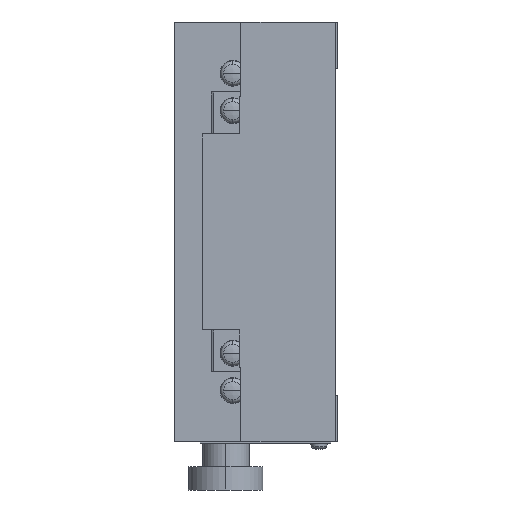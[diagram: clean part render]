
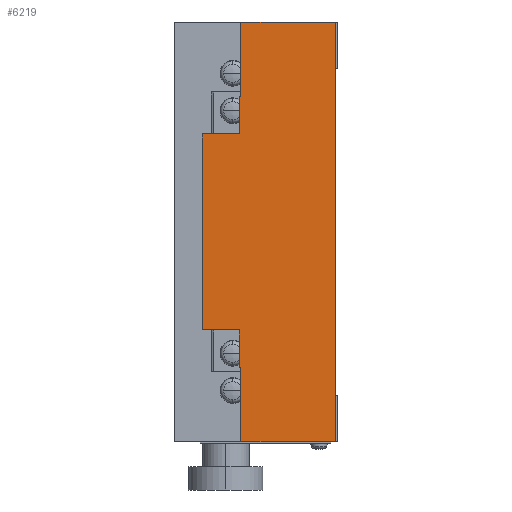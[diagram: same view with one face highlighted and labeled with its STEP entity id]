
A CAD part, left-side view. The second image highlights one B-rep face of the part: STEP entity #6219.
In plain terms, the highlighted planar face has unit normal (-1, 0, 0).
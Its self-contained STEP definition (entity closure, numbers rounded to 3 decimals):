
#1060 = CARTESIAN_POINT ( 'NONE',  ( -55., 29., -21. ) ) ;
#1230 = DIRECTION ( 'NONE',  ( 0., -1., 0. ) ) ;
#1231 = VECTOR ( 'NONE', #1230, 1000. ) ;
#1232 = CARTESIAN_POINT ( 'NONE',  ( -55., 0.5, 45. ) ) ;
#1233 = LINE ( 'NONE', #1232, #1231 ) ;
#1239 = DIRECTION ( 'NONE',  ( 0., 0., 1. ) ) ;
#1240 = VECTOR ( 'NONE', #1239, 1000. ) ;
#1241 = CARTESIAN_POINT ( 'NONE',  ( -55., 21.046, 0. ) ) ;
#1242 = LINE ( 'NONE', #1241, #1240 ) ;
#1243 = CARTESIAN_POINT ( 'NONE',  ( -55., 21.046, 29. ) ) ;
#1279 = CARTESIAN_POINT ( 'NONE',  ( -55., 21.046, 21. ) ) ;
#1291 = DIRECTION ( 'NONE',  ( 0., 0., -1. ) ) ;
#1292 = VECTOR ( 'NONE', #1291, 1000. ) ;
#1293 = CARTESIAN_POINT ( 'NONE',  ( -55., 29., 45. ) ) ;
#1294 = LINE ( 'NONE', #1293, #1292 ) ;
#1301 = CARTESIAN_POINT ( 'NONE',  ( -55., 20.733, 45. ) ) ;
#1311 = DIRECTION ( 'NONE',  ( 0., 0., 1. ) ) ;
#1312 = VECTOR ( 'NONE', #1311, 1000. ) ;
#1313 = CARTESIAN_POINT ( 'NONE',  ( -55., 20.733, 0. ) ) ;
#1314 = LINE ( 'NONE', #1313, #1312 ) ;
#1345 = CARTESIAN_POINT ( 'NONE',  ( -55., 0.5, 45. ) ) ;
#1382 = DIRECTION ( 'NONE',  ( 0., -1., 0. ) ) ;
#1383 = VECTOR ( 'NONE', #1382, 1000. ) ;
#1384 = CARTESIAN_POINT ( 'NONE',  ( -55., 0.5, 21. ) ) ;
#1385 = LINE ( 'NONE', #1384, #1383 ) ;
#1396 = DIRECTION ( 'NONE',  ( 0., -1., 0. ) ) ;
#1397 = VECTOR ( 'NONE', #1396, 1000. ) ;
#1398 = CARTESIAN_POINT ( 'NONE',  ( -55., 0.5, 29. ) ) ;
#1403 = LINE ( 'NONE', #1398, #1397 ) ;
#1430 = CARTESIAN_POINT ( 'NONE',  ( -55., 29., 21. ) ) ;
#1666 = CARTESIAN_POINT ( 'NONE',  ( -55., 20.733, 29. ) ) ;
#1686 = DIRECTION ( 'NONE',  ( 0., 1., 0. ) ) ;
#1687 = VECTOR ( 'NONE', #1686, 1000. ) ;
#1688 = CARTESIAN_POINT ( 'NONE',  ( -55., 0.5, -21. ) ) ;
#1689 = LINE ( 'NONE', #1688, #1687 ) ;
#1783 = CARTESIAN_POINT ( 'NONE',  ( -55., 21.046, -21. ) ) ;
#1810 = DIRECTION ( 'NONE',  ( 0., 0., 1. ) ) ;
#1811 = VECTOR ( 'NONE', #1810, 1000. ) ;
#1812 = CARTESIAN_POINT ( 'NONE',  ( -55., 20.733, 0. ) ) ;
#1813 = LINE ( 'NONE', #1812, #1811 ) ;
#1887 = DIRECTION ( 'NONE',  ( 0., 0., 1. ) ) ;
#1888 = VECTOR ( 'NONE', #1887, 1000. ) ;
#1889 = CARTESIAN_POINT ( 'NONE',  ( -55., 21.046, 0. ) ) ;
#1890 = LINE ( 'NONE', #1889, #1888 ) ;
#1923 = CARTESIAN_POINT ( 'NONE',  ( -55., 21.046, -29. ) ) ;
#1990 = DIRECTION ( 'NONE',  ( 0., 0., -1. ) ) ;
#1991 = VECTOR ( 'NONE', #1990, 1000. ) ;
#1992 = CARTESIAN_POINT ( 'NONE',  ( -55., 0.5, 45. ) ) ;
#1993 = LINE ( 'NONE', #1992, #1991 ) ;
#2003 = DIRECTION ( 'NONE',  ( 0., 0., -1. ) ) ;
#2004 = DIRECTION ( 'NONE',  ( 1., 0., 0. ) ) ;
#2005 = CARTESIAN_POINT ( 'NONE',  ( -55., 0.5, 45. ) ) ;
#2006 = AXIS2_PLACEMENT_3D ( 'NONE', #2005, #2004, #2003 ) ;
#2007 = PLANE ( 'NONE',  #2006 ) ;
#2008 = FACE_OUTER_BOUND ( 'NONE', #6358, .T. ) ;
#2014 = DIRECTION ( 'NONE',  ( 0., 1., 0. ) ) ;
#2015 = VECTOR ( 'NONE', #2014, 1000. ) ;
#2016 = CARTESIAN_POINT ( 'NONE',  ( -55., 0.5, -29. ) ) ;
#2017 = LINE ( 'NONE', #2016, #2015 ) ;
#2121 = DIRECTION ( 'NONE',  ( 0., -1., 0. ) ) ;
#2122 = VECTOR ( 'NONE', #2121, 1000. ) ;
#2123 = CARTESIAN_POINT ( 'NONE',  ( -55., 0.5, -45. ) ) ;
#2124 = LINE ( 'NONE', #2123, #2122 ) ;
#2155 = CARTESIAN_POINT ( 'NONE',  ( -55., 0.5, -45. ) ) ;
#2180 = CARTESIAN_POINT ( 'NONE',  ( -55., 20.733, -29. ) ) ;
#2381 = CARTESIAN_POINT ( 'NONE',  ( -55., 20.733, -45. ) ) ;
#5042 = ORIENTED_EDGE ( 'NONE', *, *, #5801, .F. ) ;
#5679 = VERTEX_POINT ( 'NONE', #1060 ) ;
#5735 = EDGE_CURVE ( 'NONE', #5752, #5878, #1403, .T. ) ;
#5752 = VERTEX_POINT ( 'NONE', #1243 ) ;
#5756 = EDGE_CURVE ( 'NONE', #5764, #5752, #1242, .T. ) ;
#5759 = EDGE_CURVE ( 'NONE', #5835, #5679, #1294, .T. ) ;
#5764 = VERTEX_POINT ( 'NONE', #1279 ) ;
#5779 = VERTEX_POINT ( 'NONE', #1345 ) ;
#5794 = EDGE_CURVE ( 'NONE', #5878, #5799, #1314, .T. ) ;
#5799 = VERTEX_POINT ( 'NONE', #1301 ) ;
#5801 = EDGE_CURVE ( 'NONE', #5799, #5779, #1233, .T. ) ;
#5835 = VERTEX_POINT ( 'NONE', #1430 ) ;
#5852 = EDGE_CURVE ( 'NONE', #5835, #5764, #1385, .T. ) ;
#5878 = VERTEX_POINT ( 'NONE', #1666 ) ;
#6029 = EDGE_CURVE ( 'NONE', #6091, #6061, #1890, .T. ) ;
#6057 = EDGE_CURVE ( 'NONE', #6061, #5679, #1689, .T. ) ;
#6061 = VERTEX_POINT ( 'NONE', #1783 ) ;
#6091 = VERTEX_POINT ( 'NONE', #1923 ) ;
#6136 = EDGE_CURVE ( 'NONE', #6340, #6269, #1813, .T. ) ;
#6204 = ORIENTED_EDGE ( 'NONE', *, *, #6277, .F. ) ;
#6206 = ORIENTED_EDGE ( 'NONE', *, *, #5794, .F. ) ;
#6207 = ORIENTED_EDGE ( 'NONE', *, *, #5852, .F. ) ;
#6215 = ORIENTED_EDGE ( 'NONE', *, *, #5759, .T. ) ;
#6216 = ORIENTED_EDGE ( 'NONE', *, *, #5735, .F. ) ;
#6219 = ADVANCED_FACE ( 'NONE', ( #2008 ), #2007, .F. ) ;
#6229 = EDGE_CURVE ( 'NONE', #5779, #6230, #1993, .T. ) ;
#6230 = VERTEX_POINT ( 'NONE', #2155 ) ;
#6258 = ORIENTED_EDGE ( 'NONE', *, *, #5756, .F. ) ;
#6269 = VERTEX_POINT ( 'NONE', #2180 ) ;
#6277 = EDGE_CURVE ( 'NONE', #6269, #6091, #2017, .T. ) ;
#6290 = ORIENTED_EDGE ( 'NONE', *, *, #6291, .T. ) ;
#6291 = EDGE_CURVE ( 'NONE', #6340, #6230, #2124, .T. ) ;
#6292 = ORIENTED_EDGE ( 'NONE', *, *, #6229, .F. ) ;
#6294 = ORIENTED_EDGE ( 'NONE', *, *, #6057, .F. ) ;
#6295 = ORIENTED_EDGE ( 'NONE', *, *, #6029, .F. ) ;
#6340 = VERTEX_POINT ( 'NONE', #2381 ) ;
#6341 = ORIENTED_EDGE ( 'NONE', *, *, #6136, .F. ) ;
#6358 = EDGE_LOOP ( 'NONE', ( #6294, #6295, #6204, #6341, #6290, #6292, #5042, #6206, #6216, #6258, #6207, #6215 ) ) ;
